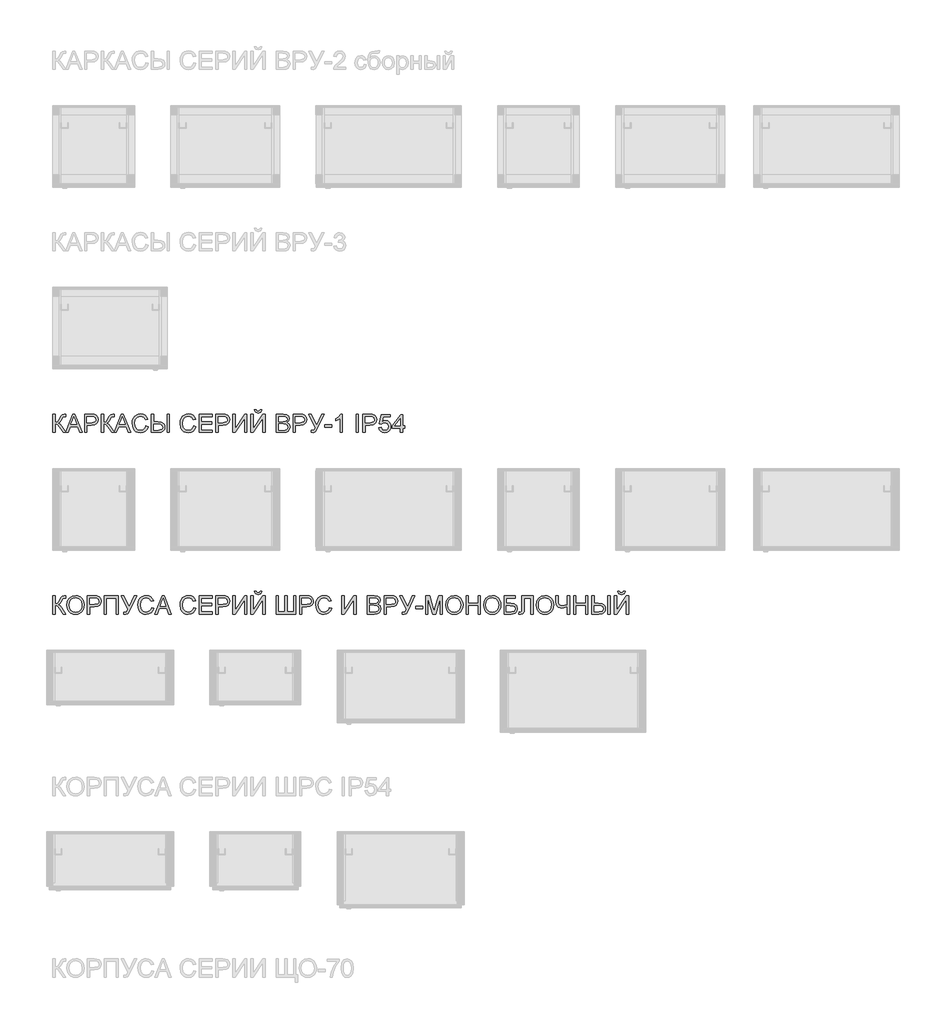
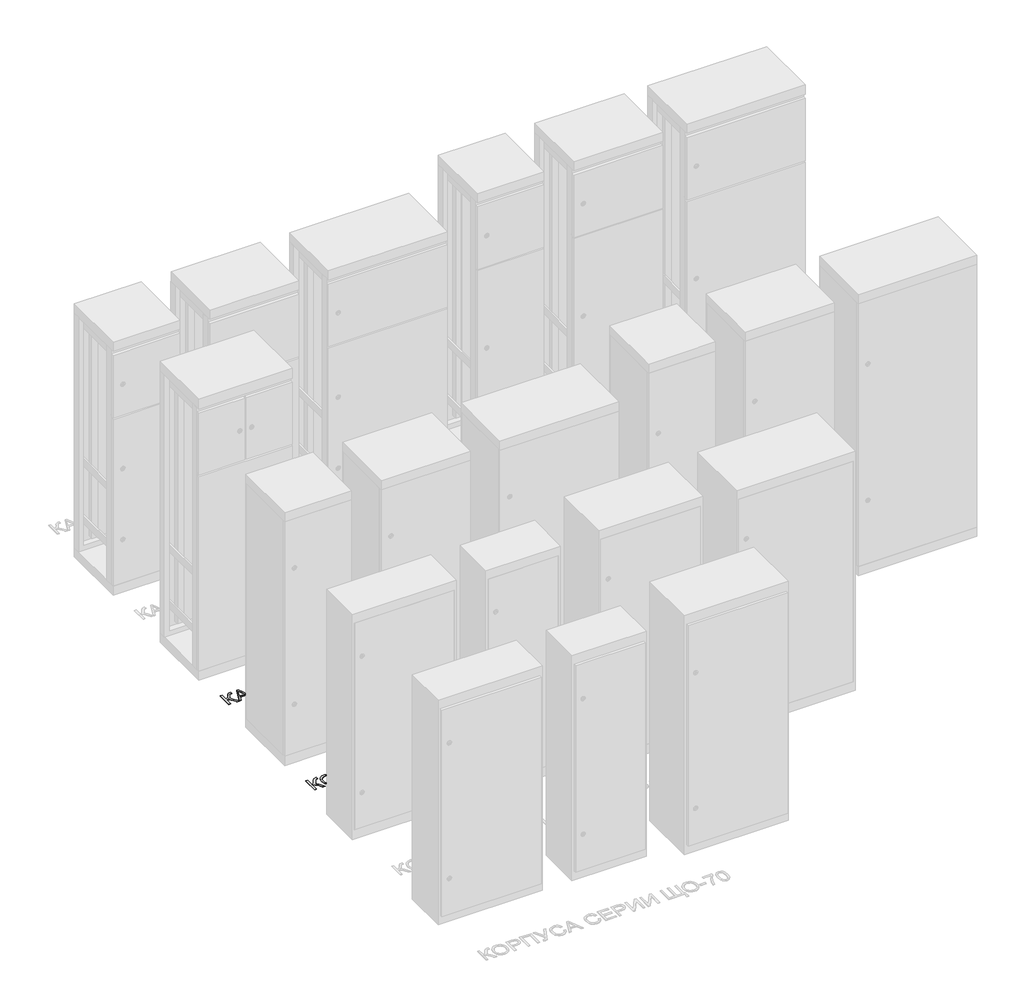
# One storey, part 4 of 25: 2 proxies.
"""IFC4 building model written with IfcOpenShell, lengths in millimetres."""

from ifc_helpers import new_model, si_unit, frame, origin, place, context, project, spatial, polyline, outline, extrude, element, save

model = new_model("IFC4")

# Units and contexts
model_context = context("Model", 3, world=origin())
ifc_project = project(units=[si_unit("LENGTHUNIT", "METRE", prefix="MILLI")], contexts=[model_context])

# Site, building, storey
site = spatial("IfcSite", under=ifc_project)
building = spatial("IfcBuilding", under=site)
storey = spatial("IfcBuildingStorey", under=building, Name="Этаж 01", Elevation=0.0)

# Proxies
placement = place(None, origin())
element("IfcBuildingElementProxy", 1, Name="Надпись на модели 1", ObjectType="Надпись на модели 1", at=placement, inside=storey, context=model_context, shape_type="SweptSolid", body=[
    extrude(outline(polyline([(-18982.0558227, -1213.764716), (-18999.9103622, -1185.4623278), (-19012.4796637, -1170.6857344), (-19025.564, -1166.6758206), (-19025.564, -1213.764716), (-19038.1210387, -1213.764716), (-19038.1210387, -1113.3084059), (-19025.564, -1113.3084059), (-19025.564, -1157.2580415), (-19011.5231705, -1153.9348409), (-19001.7252467, -1137.1226337), (-18994.7968024, -1123.0818042), (-18986.9486532, -1116.1288345), (-18975.7282523, -1113.3084059), (-18967.4876957, -1113.4555587), (-18967.4876957, -1126.0125974), (-18970.2590734, -1125.939021), (-18973.030451, -1125.8654446), (-18982.8406376, -1128.882077), (-18990.2963794, -1141.8069978), (-18999.1868609, -1157.5523471), (-19007.8566133, -1162.751746), (-18998.1629227, -1168.4293915), (-18988.6041222, -1180.262929), (-18967.9231583, -1213.0738426), (-18928.0997967, -1113.3084059), (-18917.4066934, -1113.3084059), (-18877.3075559, -1213.764716), (-18890.5758332, -1213.764716), (-18902.0782769, -1182.3721191), (-18943.4527386, -1182.3721191), (-18954.9306569, -1213.764716), (-18968.1989342, -1213.764716), (-18982.0558227, -1213.764716)]), holes=[polyline([(-18938.841951, -1169.8150803), (-18906.6645391, -1169.8150803), (-18915.7144362, -1145.1179357), (-18922.753245, -1125.8654446), (-18929.007239, -1142.9596947), (-18938.841951, -1169.8150803)])]), frame((0.0, 0.0, 40.0), z_axis=(0.0, 0.0, 1.0), x_axis=(1.0, 0.0, 0.0)), (0.0, 0.0, 1.0), 2.0),
    extrude(outline(polyline([(-18863.8921258, -1213.764716), (-18863.8921258, -1113.3084059), (-18826.6624679, -1113.3084059), (-18811.6528825, -1114.264899), (-18799.451463, -1118.9615258), (-18791.5420001, -1128.6736105), (-18788.5498932, -1142.3710835), (-18790.5701785, -1154.2107524), (-18796.6310344, -1164.0761212), (-18807.9648655, -1170.7347853), (-18825.8040766, -1172.95434), (-18851.335087, -1172.95434), (-18851.335087, -1213.764716), (-18863.8921258, -1213.764716)]), holes=[polyline([(-18851.335087, -1160.3973012), (-18825.0683126, -1160.3973012), (-18806.576111, -1155.7865136), (-18802.4742267, -1150.2376268), (-18801.106932, -1142.8125419), (-18804.3320308, -1132.4137441), (-18812.8055794, -1126.7238359), (-18825.3626182, -1125.8654446), (-18851.335087, -1125.8654446), (-18851.335087, -1160.3973012)])]), frame((0.0, 0.0, 40.0), z_axis=(0.0, 0.0, 1.0), x_axis=(1.0, 0.0, 0.0)), (0.0, 0.0, 1.0), 2.0),
    extrude(outline(polyline([(-18715.2187488, -1213.764716), (-18733.0732883, -1185.4623278), (-18745.6425898, -1170.6857344), (-18758.7269261, -1166.6758206), (-18758.7269261, -1213.764716), (-18771.2839649, -1213.764716), (-18771.2839649, -1113.3084059), (-18758.7269261, -1113.3084059), (-18758.7269261, -1157.2580415), (-18744.6860966, -1153.9348409), (-18734.8881728, -1137.1226337), (-18727.9597286, -1123.0818042), (-18720.1115794, -1116.1288345), (-18708.8911785, -1113.3084059), (-18700.6506218, -1113.4555587), (-18700.6506218, -1126.0125974), (-18703.4219995, -1125.939021), (-18706.1933772, -1125.8654446), (-18716.0035638, -1128.882077), (-18723.4593055, -1141.8069978), (-18732.3497871, -1157.5523471), (-18741.0195394, -1162.751746), (-18731.3258489, -1168.4293915), (-18721.7670483, -1180.262929), (-18701.0860845, -1213.0738426), (-18661.2627229, -1113.3084059), (-18650.5696195, -1113.3084059), (-18610.4704821, -1213.764716), (-18623.7387594, -1213.764716), (-18635.2412031, -1182.3721191), (-18676.6156648, -1182.3721191), (-18688.0935831, -1213.764716), (-18701.3618603, -1213.764716), (-18715.2187488, -1213.764716)]), holes=[polyline([(-18672.0048771, -1169.8150803), (-18639.8274653, -1169.8150803), (-18648.8773624, -1145.1179357), (-18655.9161712, -1125.8654446), (-18662.1701651, -1142.9596947), (-18672.0048771, -1169.8150803)])]), frame((0.0, 0.0, 40.0), z_axis=(0.0, 0.0, 1.0), x_axis=(1.0, 0.0, 0.0)), (0.0, 0.0, 1.0), 2.0),
    extrude(outline(polyline([(-18526.4217089, -1178.055637), (-18513.8646701, -1181.2929986), (-18519.6588116, -1195.9255049), (-18528.7516282, -1206.6155426), (-18540.6955303, -1213.154645), (-18555.0429281, -1215.3343459), (-18569.6079895, -1213.6850082), (-18581.1748125, -1208.7369954), (-18590.0407686, -1200.6619856), (-18596.503229, -1189.6316571), (-18601.7639415, -1162.7762715), (-18600.2770851, -1148.1284367), (-18595.8165159, -1135.4794274), (-18588.6152259, -1125.2308482), (-18578.9062069, -1117.7843035), (-18567.3915004, -1113.2501579), (-18554.773148, -1111.738776), (-18541.0051643, -1113.694682), (-18529.6222823, -1119.5623998), (-18520.9801211, -1128.9801789), (-18515.4343, -1141.5862686), (-18527.9913387, -1144.5783754), (-18538.2920346, -1129.1395944), (-18555.2636573, -1124.2958148), (-18574.9085559, -1129.6668919), (-18586.0063294, -1144.0878661), (-18589.2069027, -1162.751746), (-18585.4177182, -1184.3832073), (-18573.6209689, -1198.2033076), (-18556.2937269, -1202.7773071), (-18545.8121557, -1201.21994), (-18537.078024, -1196.5478386), (-18530.4837393, -1188.810054), (-18526.4217089, -1178.055637)])), frame((0.0, 0.0, 40.0), z_axis=(0.0, 0.0, 1.0), x_axis=(1.0, 0.0, 0.0)), (0.0, 0.0, 1.0), 2.0),
    extrude(outline(polyline([(-18496.5987418, -1113.3084059), (-18484.0417031, -1113.3084059), (-18484.0417031, -1155.6884117), (-18459.9086442, -1155.6884117), (-18440.269877, -1157.8834409), (-18428.7367765, -1164.4685287), (-18423.126576, -1173.8372568), (-18421.2565092, -1184.3832073), (-18423.2338749, -1195.3982074), (-18429.1659721, -1204.9478109), (-18440.4691464, -1211.5604897), (-18458.5597435, -1213.764716), (-18496.5987418, -1213.764716), (-18496.5987418, -1113.3084059)]), holes=[polyline([(-18484.0417031, -1201.2076772), (-18458.6823709, -1201.2076772), (-18439.7119226, -1197.222289), (-18435.2881416, -1192.0382185), (-18433.813548, -1184.4567837), (-18437.3820033, -1174.4749189), (-18446.6035787, -1169.3490965), (-18465.475925, -1168.2454505), (-18484.0417031, -1168.2454505), (-18484.0417031, -1201.2076772)])]), frame((0.0, 0.0, 40.0), z_axis=(0.0, 0.0, 1.0), x_axis=(1.0, 0.0, 0.0)), (0.0, 0.0, 1.0), 2.0),
    extrude(outline(polyline([(-18408.6994704, -1113.3084059), (-18396.1424317, -1113.3084059), (-18396.1424317, -1213.764716), (-18408.6994704, -1213.764716), (-18408.6994704, -1113.3084059)])), frame((0.0, 0.0, 40.0), z_axis=(0.0, 0.0, 1.0), x_axis=(1.0, 0.0, 0.0)), (0.0, 0.0, 1.0), 2.0),
    extrude(outline(polyline([(-18262.7238948, -1178.055637), (-18250.166856, -1181.2929986), (-18255.9609974, -1195.9255049), (-18265.0538141, -1206.6155426), (-18276.9977162, -1213.154645), (-18291.345114, -1215.3343459), (-18305.9101753, -1213.6850082), (-18317.4769984, -1208.7369954), (-18326.3429545, -1200.6619856), (-18332.8054148, -1189.6316571), (-18338.0661274, -1162.7762715), (-18336.579271, -1148.1284367), (-18332.1187018, -1135.4794274), (-18324.9174117, -1125.2308482), (-18315.2083927, -1117.7843035), (-18303.6936863, -1113.2501579), (-18291.0753339, -1111.738776), (-18277.3073502, -1113.694682), (-18265.9244681, -1119.5623998), (-18257.2823069, -1128.9801789), (-18251.7364858, -1141.5862686), (-18264.2935246, -1144.5783754), (-18274.5942205, -1129.1395944), (-18291.5658432, -1124.2958148), (-18311.2107417, -1129.6668919), (-18322.3085152, -1144.0878661), (-18325.5090886, -1162.751746), (-18321.7199041, -1184.3832073), (-18309.9231547, -1198.2033076), (-18292.5959128, -1202.7773071), (-18282.1143416, -1201.21994), (-18273.3802099, -1196.5478386), (-18266.7859251, -1188.810054), (-18262.7238948, -1178.055637)])), frame((0.0, 0.0, 40.0), z_axis=(0.0, 0.0, 1.0), x_axis=(1.0, 0.0, 0.0)), (0.0, 0.0, 1.0), 2.0),
    extrude(outline(polyline([(-18232.9009277, -1213.764716), (-18232.9009277, -1113.3084059), (-18160.6979548, -1113.3084059), (-18160.6979548, -1125.8654446), (-18220.3438889, -1125.8654446), (-18220.3438889, -1155.6884117), (-18163.8372145, -1155.6884117), (-18163.8372145, -1168.2454505), (-18220.3438889, -1168.2454505), (-18220.3438889, -1201.2076772), (-18159.1283249, -1201.2076772), (-18159.1283249, -1213.764716), (-18232.9009277, -1213.764716)])), frame((0.0, 0.0, 40.0), z_axis=(0.0, 0.0, 1.0), x_axis=(1.0, 0.0, 0.0)), (0.0, 0.0, 1.0), 2.0),
    extrude(outline(polyline([(-18140.2927668, -1213.764716), (-18140.2927668, -1113.3084059), (-18103.0631089, -1113.3084059), (-18088.0535235, -1114.264899), (-18075.8521039, -1118.9615258), (-18067.942641, -1128.6736105), (-18064.9505342, -1142.3710835), (-18066.9708194, -1154.2107524), (-18073.0316753, -1164.0761212), (-18084.3655064, -1170.7347853), (-18102.2047175, -1172.95434), (-18127.735728, -1172.95434), (-18127.735728, -1213.764716), (-18140.2927668, -1213.764716)]), holes=[polyline([(-18127.735728, -1160.3973012), (-18101.4689535, -1160.3973012), (-18082.9767519, -1155.7865136), (-18078.8748677, -1150.2376268), (-18077.5075729, -1142.8125419), (-18080.7326717, -1132.4137441), (-18089.2062204, -1126.7238359), (-18101.7632591, -1125.8654446), (-18127.735728, -1125.8654446), (-18127.735728, -1160.3973012)])]), frame((0.0, 0.0, 40.0), z_axis=(0.0, 0.0, 1.0), x_axis=(1.0, 0.0, 0.0)), (0.0, 0.0, 1.0), 2.0),
    extrude(outline(polyline([(-18047.6846058, -1113.3084059), (-18035.1275671, -1113.3084059), (-18035.1275671, -1192.8690187), (-17982.5449672, -1113.3084059), (-17969.2031135, -1113.3084059), (-17969.2031135, -1213.764716), (-17981.7601523, -1213.764716), (-17981.7601523, -1134.4248324), (-18034.2201248, -1213.764716), (-18047.6846058, -1213.764716), (-18047.6846058, -1113.3084059)])), frame((0.0, 0.0, 40.0), z_axis=(0.0, 0.0, 1.0), x_axis=(1.0, 0.0, 0.0)), (0.0, 0.0, 1.0), 2.0),
    extrude(outline(polyline([(-17897.0001406, -1088.1943283), (-17887.5823615, -1088.1943283), (-17893.6769399, -1102.1615814), (-17907.2027346, -1107.0298865), (-17921.844438, -1102.1983696), (-17928.3927375, -1088.1943283), (-17918.9749585, -1088.1943283), (-17915.4432913, -1095.2699254), (-17908.3309061, -1097.6121074), (-17900.5318078, -1095.3435018), (-17897.0001406, -1088.1943283)])), frame((0.0, 0.0, 40.0), z_axis=(0.0, 0.0, 1.0), x_axis=(1.0, 0.0, 0.0)), (0.0, 0.0, 1.0), 2.0),
    extrude(outline(polyline([(-17947.2282957, -1113.3084059), (-17934.6712569, -1113.3084059), (-17934.6712569, -1192.8690187), (-17882.0886571, -1113.3084059), (-17868.7468034, -1113.3084059), (-17868.7468034, -1213.764716), (-17881.3038422, -1213.764716), (-17881.3038422, -1134.4248324), (-17933.7638147, -1213.764716), (-17947.2282957, -1213.764716), (-17947.2282957, -1113.3084059)])), frame((0.0, 0.0, 40.0), z_axis=(0.0, 0.0, 1.0), x_axis=(1.0, 0.0, 0.0)), (0.0, 0.0, 1.0), 2.0),
    extrude(outline(polyline([(-17807.5312394, -1213.764716), (-17807.5312394, -1113.3084059), (-17769.1979355, -1113.3084059), (-17750.423691, -1116.2637246), (-17739.3381802, -1125.3504098), (-17735.3282665, -1138.2017542), (-17738.7005181, -1149.9371898), (-17748.8908494, -1158.8276714), (-17736.5177516, -1168.1963995), (-17732.1890068, -1183.8191216), (-17735.1443255, -1197.3203908), (-17742.4651772, -1206.9343736), (-17753.3912724, -1212.0356706), (-17769.4922411, -1213.764716), (-17807.5312394, -1213.764716)]), holes=[polyline([(-17794.9742006, -1154.1187819), (-17772.0428896, -1154.1187819), (-17758.651985, -1153.0396613), (-17750.5953693, -1148.3920855), (-17747.8853052, -1140.2128424), (-17750.4114283, -1132.0213367), (-17757.6464408, -1127.1775571), (-17773.7841977, -1125.8654446), (-17794.9742006, -1125.8654446), (-17794.9742006, -1154.1187819)]), polyline([(-17794.9742006, -1201.2076772), (-17769.222461, -1201.2076772), (-17759.9027838, -1200.7171679), (-17752.0178463, -1197.9825784), (-17746.793922, -1192.4030348), (-17744.7460456, -1183.9417489), (-17747.1495413, -1174.1806133), (-17754.9363768, -1168.3558151), (-17770.4487343, -1166.6758206), (-17794.9742006, -1166.6758206), (-17794.9742006, -1201.2076772)])]), frame((0.0, 0.0, 40.0), z_axis=(0.0, 0.0, 1.0), x_axis=(1.0, 0.0, 0.0)), (0.0, 0.0, 1.0), 2.0),
    extrude(outline(polyline([(-17714.9230785, -1213.764716), (-17714.9230785, -1113.3084059), (-17677.6934206, -1113.3084059), (-17662.6838352, -1114.264899), (-17650.4824157, -1118.9615258), (-17642.5729528, -1128.6736105), (-17639.5808459, -1142.3710835), (-17641.6011312, -1154.2107524), (-17647.661987, -1164.0761212), (-17658.9958182, -1170.7347853), (-17676.8350292, -1172.95434), (-17702.3660397, -1172.95434), (-17702.3660397, -1213.764716), (-17714.9230785, -1213.764716)]), holes=[polyline([(-17702.3660397, -1160.3973012), (-17676.0992653, -1160.3973012), (-17657.6070636, -1155.7865136), (-17653.5051794, -1150.2376268), (-17652.1378846, -1142.8125419), (-17655.3629835, -1132.4137441), (-17663.8365321, -1126.7238359), (-17676.3935708, -1125.8654446), (-17702.3660397, -1125.8654446), (-17702.3660397, -1160.3973012)])]), frame((0.0, 0.0, 40.0), z_axis=(0.0, 0.0, 1.0), x_axis=(1.0, 0.0, 0.0)), (0.0, 0.0, 1.0), 2.0),
    extrude(outline(polyline([(-17629.3782519, -1113.3084059), (-17615.4723124, -1113.3084059), (-17585.4286162, -1172.8071872), (-17558.4015523, -1113.3084059), (-17544.6182402, -1113.3084059), (-17582.7553403, -1191.569169), (-17593.1296126, -1210.7971346), (-17604.7301582, -1215.3343459), (-17616.0363982, -1213.764716), (-17616.0363982, -1202.7773071), (-17606.1526352, -1202.7773071), (-17598.8195208, -1199.9814039), (-17592.0259666, -1187.2526869), (-17629.3782519, -1113.3084059)])), frame((0.0, 0.0, 40.0), z_axis=(0.0, 0.0, 1.0), x_axis=(1.0, 0.0, 0.0)), (0.0, 0.0, 1.0), 2.0),
    extrude(outline(polyline([(-17540.6941656, -1183.9417489), (-17540.6941656, -1171.3847102), (-17501.4534194, -1171.3847102), (-17501.4534194, -1183.9417489), (-17540.6941656, -1183.9417489)])), frame((0.0, 0.0, 40.0), z_axis=(0.0, 0.0, 1.0), x_axis=(1.0, 0.0, 0.0)), (0.0, 0.0, 1.0), 2.0),
    extrude(outline(polyline([(-17443.3771151, -1213.764716), (-17455.9341539, -1213.764716), (-17455.9341539, -1135.4794274), (-17467.829005, -1143.9529761), (-17481.0482314, -1150.2928091), (-17481.0482314, -1138.4224834), (-17462.6418689, -1126.674785), (-17451.470519, -1113.3084059), (-17443.3771151, -1113.3084059), (-17443.3771151, -1213.764716)])), frame((0.0, 0.0, 40.0), z_axis=(0.0, 0.0, 1.0), x_axis=(1.0, 0.0, 0.0)), (0.0, 0.0, 1.0), 2.0),
    extrude(outline(polyline([(-17368.0348825, -1213.764716), (-17368.0348825, -1113.3084059), (-17355.4778437, -1113.3084059), (-17355.4778437, -1213.764716), (-17368.0348825, -1213.764716)])), frame((0.0, 0.0, 40.0), z_axis=(0.0, 0.0, 1.0), x_axis=(1.0, 0.0, 0.0)), (0.0, 0.0, 1.0), 2.0),
    extrude(outline(polyline([(-17330.3637662, -1213.764716), (-17330.3637662, -1113.3084059), (-17293.1341083, -1113.3084059), (-17278.1245229, -1114.264899), (-17265.9231034, -1118.9615258), (-17258.0136405, -1128.6736105), (-17255.0215336, -1142.3710835), (-17257.0418189, -1154.2107524), (-17263.1026747, -1164.0761212), (-17274.4365059, -1170.7347853), (-17292.275717, -1172.95434), (-17317.8067274, -1172.95434), (-17317.8067274, -1213.764716), (-17330.3637662, -1213.764716)]), holes=[polyline([(-17317.8067274, -1160.3973012), (-17291.539953, -1160.3973012), (-17273.0477513, -1155.7865136), (-17268.9458671, -1150.2376268), (-17267.5785723, -1142.8125419), (-17270.8036712, -1132.4137441), (-17279.2772198, -1126.7238359), (-17291.8342586, -1125.8654446), (-17317.8067274, -1125.8654446), (-17317.8067274, -1160.3973012)])]), frame((0.0, 0.0, 40.0), z_axis=(0.0, 0.0, 1.0), x_axis=(1.0, 0.0, 0.0)), (0.0, 0.0, 1.0), 2.0),
    extrude(outline(polyline([(-17242.4644948, -1187.0810086), (-17229.907456, -1185.5113788), (-17223.5798857, -1198.4485623), (-17210.4587612, -1202.7773071), (-17201.4579151, -1201.2720566), (-17194.7134118, -1196.7563051), (-17190.501163, -1189.7512188), (-17189.09708, -1180.7779638), (-17194.3577926, -1165.8664802), (-17200.9643401, -1161.764596), (-17210.2625575, -1160.3973012), (-17221.2867546, -1162.5800677), (-17228.3378262, -1168.2454505), (-17240.894865, -1166.6758206), (-17229.907456, -1114.8780357), (-17181.2489308, -1114.8780357), (-17181.2489308, -1127.4350745), (-17219.753913, -1127.4350745), (-17225.1249901, -1155.0998005), (-17216.1548008, -1149.655147), (-17206.7554158, -1147.8402625), (-17195.0230458, -1150.090474), (-17185.28337, -1156.8411086), (-17178.7258735, -1167.1295418), (-17176.5400413, -1179.9931488), (-17178.5082099, -1192.5501876), (-17184.412716, -1203.2923419), (-17195.7189559, -1212.3238449), (-17210.5078122, -1215.3343459), (-17222.841056, -1213.3998997), (-17232.666571, -1207.5965612), (-17239.4018772, -1198.5987808), (-17242.4644948, -1187.0810086)])), frame((0.0, 0.0, 40.0), z_axis=(0.0, 0.0, 1.0), x_axis=(1.0, 0.0, 0.0)), (0.0, 0.0, 1.0), 2.0),
    extrude(outline(polyline([(-17124.7422563, -1213.764716), (-17124.7422563, -1190.2202683), (-17170.2615219, -1190.2202683), (-17170.2615219, -1177.6632295), (-17121.6029967, -1114.8780357), (-17112.1852176, -1114.8780357), (-17112.1852176, -1177.6632295), (-17099.6281788, -1177.6632295), (-17099.6281788, -1190.2202683), (-17112.1852176, -1190.2202683), (-17112.1852176, -1213.764716), (-17124.7422563, -1213.764716)]), holes=[polyline([(-17124.7422563, -1177.6632295), (-17124.7422563, -1138.8639418), (-17154.8104781, -1177.6632295), (-17124.7422563, -1177.6632295)])]), frame((0.0, 0.0, 40.0), z_axis=(0.0, 0.0, 1.0), x_axis=(1.0, 0.0, 0.0)), (0.0, 0.0, 1.0), 2.0),
])
element("IfcBuildingElementProxy", 2, Name="Надпись на модели 1", ObjectType="Надпись на модели 1", at=placement, inside=storey, context=model_context, shape_type="SweptSolid", body=[
    extrude(outline(polyline([(-19038.1210387, -2113.3084059), (-19025.564, -2113.3084059), (-19025.564, -2157.2580415), (-19011.5231705, -2153.9348409), (-19001.7252467, -2137.1226337), (-18994.7968024, -2123.0818042), (-18986.9486532, -2116.1288345), (-18975.7282523, -2113.3084059), (-18967.4876957, -2113.4555587), (-18967.4876957, -2126.0125974), (-18970.2590734, -2125.939021), (-18973.030451, -2125.8654446), (-18982.8406376, -2128.882077), (-18990.2963794, -2141.8069978), (-18999.1868609, -2157.5523471), (-19007.8566133, -2162.751746), (-18998.1629227, -2168.4293915), (-18988.6041222, -2180.262929), (-18967.4876957, -2213.764716), (-18982.0558227, -2213.764716), (-18999.9103622, -2185.4623278), (-19012.4796637, -2170.6857344), (-19025.564, -2166.6758206), (-19025.564, -2213.764716), (-19038.1210387, -2213.764716), (-19038.1210387, -2113.3084059)])), frame((0.0, 0.0, 40.0), z_axis=(0.0, 0.0, 1.0), x_axis=(1.0, 0.0, 0.0)), (0.0, 0.0, 1.0), 2.0),
    extrude(outline(polyline([(-18961.2091763, -2164.8609361), (-18957.8614501, -2142.646995), (-18947.8182716, -2125.8409192), (-18932.4837238, -2115.2643118), (-18913.2618896, -2111.738776), (-18900.0855828, -2113.394245), (-18888.2704394, -2118.3606519), (-18878.4602528, -2126.2885089), (-18871.2988166, -2136.8283281), (-18866.9210209, -2149.471206), (-18865.4617557, -2163.7082392), (-18866.997663, -2178.1353448), (-18871.605385, -2190.9560323), (-18879.0304699, -2201.5142456), (-18889.0184661, -2209.1539283), (-18900.7324419, -2213.7892415), (-18913.335466, -2215.3343459), (-18926.7141079, -2213.6267603), (-18938.5966963, -2208.5040035), (-18948.3823574, -2200.4289937), (-18955.4702171, -2189.8646491), (-18961.2091763, -2164.8609361)]), holes=[polyline([(-18948.6521375, -2164.9835634), (-18946.1413429, -2180.698256), (-18938.608959, -2192.672815), (-18927.2873906, -2200.2511841), (-18913.4090424, -2202.7773071), (-18899.328359, -2200.2266586), (-18887.9883965, -2192.5747131), (-18880.5111949, -2180.2322721), (-18878.0187944, -2163.6101373), (-18882.2862256, -2142.8861183), (-18894.7574252, -2129.1641198), (-18913.1883132, -2124.2958148), (-18926.6957138, -2126.6410625), (-18938.1797634, -2133.6768057), (-18946.034044, -2146.1939905), (-18948.6521375, -2164.9835634)])]), frame((0.0, 0.0, 40.0), z_axis=(0.0, 0.0, 1.0), x_axis=(1.0, 0.0, 0.0)), (0.0, 0.0, 1.0), 2.0),
    extrude(outline(polyline([(-18848.1958274, -2213.764716), (-18848.1958274, -2113.3084059), (-18810.9661694, -2113.3084059), (-18795.956584, -2114.264899), (-18783.7551645, -2118.9615258), (-18775.8457016, -2128.6736105), (-18772.8535947, -2142.3710835), (-18774.87388, -2154.2107524), (-18780.9347359, -2164.0761212), (-18792.268567, -2170.7347853), (-18810.1077781, -2172.95434), (-18835.6387886, -2172.95434), (-18835.6387886, -2213.764716), (-18848.1958274, -2213.764716)]), holes=[polyline([(-18835.6387886, -2160.3973012), (-18809.3720141, -2160.3973012), (-18790.8798125, -2155.7865136), (-18786.7779283, -2150.2376268), (-18785.4106335, -2142.8125419), (-18788.6357323, -2132.4137441), (-18797.109281, -2126.7238359), (-18809.6663197, -2125.8654446), (-18835.6387886, -2125.8654446), (-18835.6387886, -2160.3973012)])]), frame((0.0, 0.0, 40.0), z_axis=(0.0, 0.0, 1.0), x_axis=(1.0, 0.0, 0.0)), (0.0, 0.0, 1.0), 2.0),
    extrude(outline(polyline([(-18755.5876664, -2113.3084059), (-18677.1061741, -2113.3084059), (-18677.1061741, -2213.764716), (-18689.6632129, -2213.764716), (-18689.6632129, -2125.8654446), (-18743.0306277, -2125.8654446), (-18743.0306277, -2213.764716), (-18755.5876664, -2213.764716), (-18755.5876664, -2113.3084059)])), frame((0.0, 0.0, 40.0), z_axis=(0.0, 0.0, 1.0), x_axis=(1.0, 0.0, 0.0)), (0.0, 0.0, 1.0), 2.0),
    extrude(outline(polyline([(-18662.1946906, -2113.3084059), (-18648.2887512, -2113.3084059), (-18618.2450549, -2172.8071872), (-18591.217991, -2113.3084059), (-18577.4346789, -2113.3084059), (-18615.5717791, -2191.569169), (-18625.9460513, -2210.7971346), (-18637.5465969, -2215.3343459), (-18648.8528369, -2213.764716), (-18648.8528369, -2202.7773071), (-18638.969074, -2202.7773071), (-18631.6359595, -2199.9814039), (-18624.8424053, -2187.2526869), (-18662.1946906, -2113.3084059)])), frame((0.0, 0.0, 40.0), z_axis=(0.0, 0.0, 1.0), x_axis=(1.0, 0.0, 0.0)), (0.0, 0.0, 1.0), 2.0),
    extrude(outline(polyline([(-18495.029112, -2178.055637), (-18482.4720732, -2181.2929986), (-18488.2662146, -2195.9255049), (-18497.3590313, -2206.6155426), (-18509.3029334, -2213.154645), (-18523.6503312, -2215.3343459), (-18538.2153925, -2213.6850082), (-18549.7822156, -2208.7369954), (-18558.6481717, -2200.6619856), (-18565.1106321, -2189.6316571), (-18570.3713446, -2162.7762715), (-18568.8844882, -2148.1284367), (-18564.423919, -2135.4794274), (-18557.2226289, -2125.2308482), (-18547.51361, -2117.7843035), (-18535.9989035, -2113.2501579), (-18523.3805511, -2111.738776), (-18509.6125674, -2113.694682), (-18498.2296853, -2119.5623998), (-18489.5875241, -2128.9801789), (-18484.0417031, -2141.5862686), (-18496.5987418, -2144.5783754), (-18506.8994377, -2129.1395944), (-18523.8710604, -2124.2958148), (-18543.5159589, -2129.6668919), (-18554.6137325, -2144.0878661), (-18557.8143058, -2162.751746), (-18554.0251213, -2184.3832073), (-18542.228372, -2198.2033076), (-18524.90113, -2202.7773071), (-18514.4195588, -2201.21994), (-18505.6854271, -2196.5478386), (-18499.0911423, -2188.810054), (-18495.029112, -2178.055637)])), frame((0.0, 0.0, 40.0), z_axis=(0.0, 0.0, 1.0), x_axis=(1.0, 0.0, 0.0)), (0.0, 0.0, 1.0), 2.0),
    extrude(outline(polyline([(-18476.9047924, -2213.764716), (-18436.8056549, -2113.3084059), (-18426.1125516, -2113.3084059), (-18386.0134141, -2213.764716), (-18399.2816914, -2213.764716), (-18410.7841351, -2182.3721191), (-18452.1585968, -2182.3721191), (-18463.6365151, -2213.764716), (-18476.9047924, -2213.764716)]), holes=[polyline([(-18447.5478091, -2169.8150803), (-18415.3703973, -2169.8150803), (-18424.4202944, -2145.1179357), (-18431.4591032, -2125.8654446), (-18437.7130971, -2142.9596947), (-18447.5478091, -2169.8150803)])]), frame((0.0, 0.0, 40.0), z_axis=(0.0, 0.0, 1.0), x_axis=(1.0, 0.0, 0.0)), (0.0, 0.0, 1.0), 2.0),
    extrude(outline(polyline([(-18262.7238948, -2178.055637), (-18250.166856, -2181.2929986), (-18255.9609974, -2195.9255049), (-18265.0538141, -2206.6155426), (-18276.9977162, -2213.154645), (-18291.345114, -2215.3343459), (-18305.9101753, -2213.6850082), (-18317.4769984, -2208.7369954), (-18326.3429545, -2200.6619856), (-18332.8054148, -2189.6316571), (-18338.0661274, -2162.7762715), (-18336.579271, -2148.1284367), (-18332.1187018, -2135.4794274), (-18324.9174117, -2125.2308482), (-18315.2083927, -2117.7843035), (-18303.6936863, -2113.2501579), (-18291.0753339, -2111.738776), (-18277.3073502, -2113.694682), (-18265.9244681, -2119.5623998), (-18257.2823069, -2128.9801789), (-18251.7364858, -2141.5862686), (-18264.2935246, -2144.5783754), (-18274.5942205, -2129.1395944), (-18291.5658432, -2124.2958148), (-18311.2107417, -2129.6668919), (-18322.3085152, -2144.0878661), (-18325.5090886, -2162.751746), (-18321.7199041, -2184.3832073), (-18309.9231547, -2198.2033076), (-18292.5959128, -2202.7773071), (-18282.1143416, -2201.21994), (-18273.3802099, -2196.5478386), (-18266.7859251, -2188.810054), (-18262.7238948, -2178.055637)])), frame((0.0, 0.0, 40.0), z_axis=(0.0, 0.0, 1.0), x_axis=(1.0, 0.0, 0.0)), (0.0, 0.0, 1.0), 2.0),
    extrude(outline(polyline([(-18232.9009277, -2213.764716), (-18232.9009277, -2113.3084059), (-18160.6979548, -2113.3084059), (-18160.6979548, -2125.8654446), (-18220.3438889, -2125.8654446), (-18220.3438889, -2155.6884117), (-18163.8372145, -2155.6884117), (-18163.8372145, -2168.2454505), (-18220.3438889, -2168.2454505), (-18220.3438889, -2201.2076772), (-18159.1283249, -2201.2076772), (-18159.1283249, -2213.764716), (-18232.9009277, -2213.764716)])), frame((0.0, 0.0, 40.0), z_axis=(0.0, 0.0, 1.0), x_axis=(1.0, 0.0, 0.0)), (0.0, 0.0, 1.0), 2.0),
    extrude(outline(polyline([(-18140.2927668, -2213.764716), (-18140.2927668, -2113.3084059), (-18103.0631089, -2113.3084059), (-18088.0535235, -2114.264899), (-18075.8521039, -2118.9615258), (-18067.942641, -2128.6736105), (-18064.9505342, -2142.3710835), (-18066.9708194, -2154.2107524), (-18073.0316753, -2164.0761212), (-18084.3655064, -2170.7347853), (-18102.2047175, -2172.95434), (-18127.735728, -2172.95434), (-18127.735728, -2213.764716), (-18140.2927668, -2213.764716)]), holes=[polyline([(-18127.735728, -2160.3973012), (-18101.4689535, -2160.3973012), (-18082.9767519, -2155.7865136), (-18078.8748677, -2150.2376268), (-18077.5075729, -2142.8125419), (-18080.7326717, -2132.4137441), (-18089.2062204, -2126.7238359), (-18101.7632591, -2125.8654446), (-18127.735728, -2125.8654446), (-18127.735728, -2160.3973012)])]), frame((0.0, 0.0, 40.0), z_axis=(0.0, 0.0, 1.0), x_axis=(1.0, 0.0, 0.0)), (0.0, 0.0, 1.0), 2.0),
    extrude(outline(polyline([(-18047.6846058, -2113.3084059), (-18035.1275671, -2113.3084059), (-18035.1275671, -2192.8690187), (-17982.5449672, -2113.3084059), (-17969.2031135, -2113.3084059), (-17969.2031135, -2213.764716), (-17981.7601523, -2213.764716), (-17981.7601523, -2134.4248324), (-18034.2201248, -2213.764716), (-18047.6846058, -2213.764716), (-18047.6846058, -2113.3084059)])), frame((0.0, 0.0, 40.0), z_axis=(0.0, 0.0, 1.0), x_axis=(1.0, 0.0, 0.0)), (0.0, 0.0, 1.0), 2.0),
    extrude(outline(polyline([(-17897.0001406, -2088.1943283), (-17887.5823615, -2088.1943283), (-17893.6769399, -2102.1615814), (-17907.2027346, -2107.0298865), (-17921.844438, -2102.1983696), (-17928.3927375, -2088.1943283), (-17918.9749585, -2088.1943283), (-17915.4432913, -2095.2699254), (-17908.3309061, -2097.6121074), (-17900.5318078, -2095.3435018), (-17897.0001406, -2088.1943283)])), frame((0.0, 0.0, 40.0), z_axis=(0.0, 0.0, 1.0), x_axis=(1.0, 0.0, 0.0)), (0.0, 0.0, 1.0), 2.0),
    extrude(outline(polyline([(-17947.2282957, -2113.3084059), (-17934.6712569, -2113.3084059), (-17934.6712569, -2192.8690187), (-17882.0886571, -2113.3084059), (-17868.7468034, -2113.3084059), (-17868.7468034, -2213.764716), (-17881.3038422, -2213.764716), (-17881.3038422, -2134.4248324), (-17933.7638147, -2213.764716), (-17947.2282957, -2213.764716), (-17947.2282957, -2113.3084059)])), frame((0.0, 0.0, 40.0), z_axis=(0.0, 0.0, 1.0), x_axis=(1.0, 0.0, 0.0)), (0.0, 0.0, 1.0), 2.0),
    extrude(outline(polyline([(-17809.1008692, -2113.3084059), (-17796.5438305, -2113.3084059), (-17796.5438305, -2201.2076772), (-17760.442344, -2201.2076772), (-17760.442344, -2113.3084059), (-17747.8853052, -2113.3084059), (-17747.8853052, -2201.2076772), (-17711.7838188, -2201.2076772), (-17711.7838188, -2113.3084059), (-17699.22678, -2113.3084059), (-17699.22678, -2213.764716), (-17809.1008692, -2213.764716), (-17809.1008692, -2113.3084059)])), frame((0.0, 0.0, 40.0), z_axis=(0.0, 0.0, 1.0), x_axis=(1.0, 0.0, 0.0)), (0.0, 0.0, 1.0), 2.0),
    extrude(outline(polyline([(-17678.821592, -2213.764716), (-17678.821592, -2113.3084059), (-17641.5919341, -2113.3084059), (-17626.5823487, -2114.264899), (-17614.3809292, -2118.9615258), (-17606.4714663, -2128.6736105), (-17603.4793594, -2142.3710835), (-17605.4996447, -2154.2107524), (-17611.5605006, -2164.0761212), (-17622.8943317, -2170.7347853), (-17640.7335428, -2172.95434), (-17666.2645532, -2172.95434), (-17666.2645532, -2213.764716), (-17678.821592, -2213.764716)]), holes=[polyline([(-17666.2645532, -2160.3973012), (-17639.9977788, -2160.3973012), (-17621.5055772, -2155.7865136), (-17617.4036929, -2150.2376268), (-17616.0363982, -2142.8125419), (-17619.261497, -2132.4137441), (-17627.7350456, -2126.7238359), (-17640.2920844, -2125.8654446), (-17666.2645532, -2125.8654446), (-17666.2645532, -2160.3973012)])]), frame((0.0, 0.0, 40.0), z_axis=(0.0, 0.0, 1.0), x_axis=(1.0, 0.0, 0.0)), (0.0, 0.0, 1.0), 2.0),
    extrude(outline(polyline([(-17515.580088, -2178.055637), (-17503.0230493, -2181.2929986), (-17508.8171907, -2195.9255049), (-17517.9100073, -2206.6155426), (-17529.8539094, -2213.154645), (-17544.2013072, -2215.3343459), (-17558.7663686, -2213.6850082), (-17570.3331916, -2208.7369954), (-17579.1991477, -2200.6619856), (-17585.6616081, -2189.6316571), (-17590.9223206, -2162.7762715), (-17589.4354642, -2148.1284367), (-17584.974895, -2135.4794274), (-17577.773605, -2125.2308482), (-17568.064586, -2117.7843035), (-17556.5498796, -2113.2501579), (-17543.9315271, -2111.738776), (-17530.1635434, -2113.694682), (-17518.7806614, -2119.5623998), (-17510.1385002, -2128.9801789), (-17504.5926791, -2141.5862686), (-17517.1497179, -2144.5783754), (-17527.4504137, -2129.1395944), (-17544.4220364, -2124.2958148), (-17564.066935, -2129.6668919), (-17575.1647085, -2144.0878661), (-17578.3652819, -2162.751746), (-17574.5760973, -2184.3832073), (-17562.779348, -2198.2033076), (-17545.452106, -2202.7773071), (-17534.9705349, -2201.21994), (-17526.2364031, -2196.5478386), (-17519.6421184, -2188.810054), (-17515.580088, -2178.055637)])), frame((0.0, 0.0, 40.0), z_axis=(0.0, 0.0, 1.0), x_axis=(1.0, 0.0, 0.0)), (0.0, 0.0, 1.0), 2.0),
    extrude(outline(polyline([(-17446.5163748, -2113.3084059), (-17433.959336, -2113.3084059), (-17433.959336, -2192.8690187), (-17381.3767362, -2113.3084059), (-17368.0348825, -2113.3084059), (-17368.0348825, -2213.764716), (-17380.5919213, -2213.764716), (-17380.5919213, -2134.4248324), (-17433.0518938, -2213.764716), (-17446.5163748, -2213.764716), (-17446.5163748, -2113.3084059)])), frame((0.0, 0.0, 40.0), z_axis=(0.0, 0.0, 1.0), x_axis=(1.0, 0.0, 0.0)), (0.0, 0.0, 1.0), 2.0),
    extrude(outline(polyline([(-17306.8193185, -2213.764716), (-17306.8193185, -2113.3084059), (-17268.4860146, -2113.3084059), (-17249.7117701, -2116.2637246), (-17238.6262593, -2125.3504098), (-17234.6163456, -2138.2017542), (-17237.9885972, -2149.9371898), (-17248.1789285, -2158.8276714), (-17235.8058307, -2168.1963995), (-17231.4770859, -2183.8191216), (-17234.4324046, -2197.3203908), (-17241.7532563, -2206.9343736), (-17252.6793515, -2212.0356706), (-17268.7803202, -2213.764716), (-17306.8193185, -2213.764716)]), holes=[polyline([(-17294.2622797, -2154.1187819), (-17271.3309687, -2154.1187819), (-17257.9400641, -2153.0396613), (-17249.8834484, -2148.3920855), (-17247.1733843, -2140.2128424), (-17249.6995074, -2132.0213367), (-17256.9345199, -2127.1775571), (-17273.0722768, -2125.8654446), (-17294.2622797, -2125.8654446), (-17294.2622797, -2154.1187819)]), polyline([(-17294.2622797, -2201.2076772), (-17268.5105401, -2201.2076772), (-17259.1908629, -2200.7171679), (-17251.3059254, -2197.9825784), (-17246.0820011, -2192.4030348), (-17244.0341246, -2183.9417489), (-17246.4376204, -2174.1806133), (-17254.2244559, -2168.3558151), (-17269.7368134, -2166.6758206), (-17294.2622797, -2166.6758206), (-17294.2622797, -2201.2076772)])]), frame((0.0, 0.0, 40.0), z_axis=(0.0, 0.0, 1.0), x_axis=(1.0, 0.0, 0.0)), (0.0, 0.0, 1.0), 2.0),
    extrude(outline(polyline([(-17214.2111576, -2213.764716), (-17214.2111576, -2113.3084059), (-17176.9814997, -2113.3084059), (-17161.9719143, -2114.264899), (-17149.7704948, -2118.9615258), (-17141.8610319, -2128.6736105), (-17138.868925, -2142.3710835), (-17140.8892103, -2154.2107524), (-17146.9500661, -2164.0761212), (-17158.2838973, -2170.7347853), (-17176.1231083, -2172.95434), (-17201.6541188, -2172.95434), (-17201.6541188, -2213.764716), (-17214.2111576, -2213.764716)]), holes=[polyline([(-17201.6541188, -2160.3973012), (-17175.3873443, -2160.3973012), (-17156.8951427, -2155.7865136), (-17152.7932585, -2150.2376268), (-17151.4259637, -2142.8125419), (-17154.6510626, -2132.4137441), (-17163.1246112, -2126.7238359), (-17175.6816499, -2125.8654446), (-17201.6541188, -2125.8654446), (-17201.6541188, -2160.3973012)])]), frame((0.0, 0.0, 40.0), z_axis=(0.0, 0.0, 1.0), x_axis=(1.0, 0.0, 0.0)), (0.0, 0.0, 1.0), 2.0),
    extrude(outline(polyline([(-17128.666331, -2113.3084059), (-17114.7603915, -2113.3084059), (-17084.7166953, -2172.8071872), (-17057.6896314, -2113.3084059), (-17043.9063193, -2113.3084059), (-17082.0434194, -2191.569169), (-17092.4176917, -2210.7971346), (-17104.0182373, -2215.3343459), (-17115.3244773, -2213.764716), (-17115.3244773, -2202.7773071), (-17105.4407143, -2202.7773071), (-17098.1075999, -2199.9814039), (-17091.3140457, -2187.2526869), (-17128.666331, -2113.3084059)])), frame((0.0, 0.0, 40.0), z_axis=(0.0, 0.0, 1.0), x_axis=(1.0, 0.0, 0.0)), (0.0, 0.0, 1.0), 2.0),
    extrude(outline(polyline([(-17039.9822447, -2183.9417489), (-17039.9822447, -2171.3847102), (-17000.7414985, -2171.3847102), (-17000.7414985, -2183.9417489), (-17039.9822447, -2183.9417489)])), frame((0.0, 0.0, 40.0), z_axis=(0.0, 0.0, 1.0), x_axis=(1.0, 0.0, 0.0)), (0.0, 0.0, 1.0), 2.0),
    extrude(outline(polyline([(-16985.0452, -2213.764716), (-16985.0452, -2113.3084059), (-16963.4382642, -2113.3084059), (-16942.8859234, -2184.1134272), (-16938.7411196, -2198.9022834), (-16934.2529592, -2182.8871539), (-16914.043975, -2113.3084059), (-16892.4370391, -2113.3084059), (-16892.4370391, -2213.764716), (-16904.9940779, -2213.764716), (-16904.9940779, -2125.8654446), (-16930.2307828, -2213.764716), (-16947.2514564, -2213.764716), (-16972.4881613, -2125.8654446), (-16972.4881613, -2213.764716), (-16985.0452, -2213.764716)])), frame((0.0, 0.0, 40.0), z_axis=(0.0, 0.0, 1.0), x_axis=(1.0, 0.0, 0.0)), (0.0, 0.0, 1.0), 2.0),
    extrude(outline(polyline([(-16875.1711108, -2164.8609361), (-16871.8233847, -2142.646995), (-16861.7802062, -2125.8409192), (-16846.4456584, -2115.2643118), (-16827.2238241, -2111.738776), (-16814.0475173, -2113.394245), (-16802.2323739, -2118.3606519), (-16792.4221874, -2126.2885089), (-16785.2607512, -2136.8283281), (-16780.8829555, -2149.471206), (-16779.4236902, -2163.7082392), (-16780.9595975, -2178.1353448), (-16785.5673195, -2190.9560323), (-16792.9924045, -2201.5142456), (-16802.9804006, -2209.1539283), (-16814.6943765, -2213.7892415), (-16827.2974005, -2215.3343459), (-16840.6760424, -2213.6267603), (-16852.5586308, -2208.5040035), (-16862.3442919, -2200.4289937), (-16869.4321517, -2189.8646491), (-16875.1711108, -2164.8609361)]), holes=[polyline([(-16862.6140721, -2164.9835634), (-16860.1032774, -2180.698256), (-16852.5708936, -2192.672815), (-16841.2493252, -2200.2511841), (-16827.3709769, -2202.7773071), (-16813.2902935, -2200.2266586), (-16801.950331, -2192.5747131), (-16794.4731295, -2180.2322721), (-16791.980729, -2163.6101373), (-16796.2481601, -2142.8861183), (-16808.7193598, -2129.1641198), (-16827.1502477, -2124.2958148), (-16840.6576483, -2126.6410625), (-16852.1416979, -2133.6768057), (-16859.9959785, -2146.1939905), (-16862.6140721, -2164.9835634)])]), frame((0.0, 0.0, 40.0), z_axis=(0.0, 0.0, 1.0), x_axis=(1.0, 0.0, 0.0)), (0.0, 0.0, 1.0), 2.0),
    extrude(outline(polyline([(-16762.1577619, -2213.764716), (-16762.1577619, -2113.3084059), (-16749.6007231, -2113.3084059), (-16749.6007231, -2154.1187819), (-16696.2333084, -2154.1187819), (-16696.2333084, -2113.3084059), (-16683.6762696, -2113.3084059), (-16683.6762696, -2213.764716), (-16696.2333084, -2213.764716), (-16696.2333084, -2166.6758206), (-16749.6007231, -2166.6758206), (-16749.6007231, -2213.764716), (-16762.1577619, -2213.764716)])), frame((0.0, 0.0, 40.0), z_axis=(0.0, 0.0, 1.0), x_axis=(1.0, 0.0, 0.0)), (0.0, 0.0, 1.0), 2.0),
    extrude(outline(polyline([(-16666.4103413, -2164.8609361), (-16663.0626151, -2142.646995), (-16653.0194367, -2125.8409192), (-16637.6848888, -2115.2643118), (-16618.4630546, -2111.738776), (-16605.2867478, -2113.394245), (-16593.4716044, -2118.3606519), (-16583.6614178, -2126.2885089), (-16576.4999817, -2136.8283281), (-16572.1221859, -2149.471206), (-16570.6629207, -2163.7082392), (-16572.198828, -2178.1353448), (-16576.80655, -2190.9560323), (-16584.2316349, -2201.5142456), (-16594.2196311, -2209.1539283), (-16605.933607, -2213.7892415), (-16618.536631, -2215.3343459), (-16631.9152729, -2213.6267603), (-16643.7978613, -2208.5040035), (-16653.5835224, -2200.4289937), (-16660.6713822, -2189.8646491), (-16666.4103413, -2164.8609361)]), holes=[polyline([(-16653.8533025, -2164.9835634), (-16651.3425079, -2180.698256), (-16643.8101241, -2192.672815), (-16632.4885557, -2200.2511841), (-16618.6102074, -2202.7773071), (-16604.529524, -2200.2266586), (-16593.1895615, -2192.5747131), (-16585.71236, -2180.2322721), (-16583.2199594, -2163.6101373), (-16587.4873906, -2142.8861183), (-16599.9585902, -2129.1641198), (-16618.3894782, -2124.2958148), (-16631.8968788, -2126.6410625), (-16643.3809284, -2133.6768057), (-16651.235209, -2146.1939905), (-16653.8533025, -2164.9835634)])]), frame((0.0, 0.0, 40.0), z_axis=(0.0, 0.0, 1.0), x_axis=(1.0, 0.0, 0.0)), (0.0, 0.0, 1.0), 2.0),
    extrude(outline(polyline([(-16553.3969924, -2113.3084059), (-16490.6117985, -2113.3084059), (-16490.6117985, -2125.8654446), (-16540.8399536, -2125.8654446), (-16540.8399536, -2155.6884117), (-16517.3200314, -2155.6884117), (-16496.5960123, -2158.2390602), (-16484.2597027, -2167.8775685), (-16479.6243896, -2184.3586819), (-16482.9230648, -2198.6692915), (-16492.7700396, -2209.5463358), (-16515.0636885, -2213.764716), (-16553.3969924, -2213.764716), (-16553.3969924, -2113.3084059)]), holes=[polyline([(-16540.8399536, -2201.2076772), (-16513.935517, -2201.2076772), (-16497.6260819, -2197.0628734), (-16493.5425918, -2191.8818687), (-16492.1814284, -2184.628462), (-16495.2961626, -2174.79375), (-16503.965915, -2169.5453002), (-16522.8873122, -2168.2454505), (-16540.8399536, -2168.2454505), (-16540.8399536, -2201.2076772)])]), frame((0.0, 0.0, 40.0), z_axis=(0.0, 0.0, 1.0), x_axis=(1.0, 0.0, 0.0)), (0.0, 0.0, 1.0), 2.0),
    extrude(outline(polyline([(-16454.5103121, -2113.3084059), (-16393.2947481, -2113.3084059), (-16393.2947481, -2213.764716), (-16405.8517868, -2213.764716), (-16405.8517868, -2125.8654446), (-16441.9532733, -2125.8654446), (-16441.9532733, -2177.1236693), (-16443.4125385, -2199.9936667), (-16449.5316424, -2211.2999066), (-16461.3529172, -2215.3343459), (-16471.7762404, -2213.764716), (-16470.2066105, -2201.2076772), (-16464.1978713, -2202.7773071), (-16456.9260705, -2199.4050555), (-16454.5103121, -2183.524816), (-16454.5103121, -2113.3084059)])), frame((0.0, 0.0, 40.0), z_axis=(0.0, 0.0, 1.0), x_axis=(1.0, 0.0, 0.0)), (0.0, 0.0, 1.0), 2.0),
    extrude(outline(polyline([(-16376.0288198, -2164.8609361), (-16372.6810936, -2142.646995), (-16362.6379151, -2125.8409192), (-16347.3033673, -2115.2643118), (-16328.0815331, -2111.738776), (-16314.9052263, -2113.394245), (-16303.0900829, -2118.3606519), (-16293.2798963, -2126.2885089), (-16286.1184601, -2136.8283281), (-16281.7406644, -2149.471206), (-16280.2813992, -2163.7082392), (-16281.8173065, -2178.1353448), (-16286.4250285, -2190.9560323), (-16293.8501134, -2201.5142456), (-16303.8381096, -2209.1539283), (-16315.5520854, -2213.7892415), (-16328.1551095, -2215.3343459), (-16341.5337513, -2213.6267603), (-16353.4163398, -2208.5040035), (-16363.2020009, -2200.4289937), (-16370.2898606, -2189.8646491), (-16376.0288198, -2164.8609361)]), holes=[polyline([(-16363.471781, -2164.9835634), (-16360.9609864, -2180.698256), (-16353.4286025, -2192.672815), (-16342.1070341, -2200.2511841), (-16328.2286859, -2202.7773071), (-16314.1480025, -2200.2266586), (-16302.80804, -2192.5747131), (-16295.3308384, -2180.2322721), (-16292.8384379, -2163.6101373), (-16297.1058691, -2142.8861183), (-16309.5770687, -2129.1641198), (-16328.0079567, -2124.2958148), (-16341.5153572, -2126.6410625), (-16352.9994069, -2133.6768057), (-16360.8536875, -2146.1939905), (-16363.471781, -2164.9835634)])]), frame((0.0, 0.0, 40.0), z_axis=(0.0, 0.0, 1.0), x_axis=(1.0, 0.0, 0.0)), (0.0, 0.0, 1.0), 2.0),
    extrude(outline(polyline([(-16192.3821278, -2213.764716), (-16204.9391665, -2213.764716), (-16204.9391665, -2173.5429512), (-16236.0374579, -2180.8024892), (-16254.3947694, -2175.8360823), (-16265.0388218, -2163.2299926), (-16267.7243604, -2143.2294748), (-16267.7243604, -2113.3084059), (-16255.1673216, -2113.3084059), (-16255.1673216, -2141.5372176), (-16253.6590054, -2155.1151289), (-16249.1340569, -2163.0828398), (-16234.6395063, -2168.2454505), (-16204.9391665, -2162.015982), (-16204.9391665, -2113.3084059), (-16192.3821278, -2113.3084059), (-16192.3821278, -2213.764716)])), frame((0.0, 0.0, 40.0), z_axis=(0.0, 0.0, 1.0), x_axis=(1.0, 0.0, 0.0)), (0.0, 0.0, 1.0), 2.0),
    extrude(outline(polyline([(-16170.4073099, -2213.764716), (-16170.4073099, -2113.3084059), (-16157.8502712, -2113.3084059), (-16157.8502712, -2154.1187819), (-16104.4828564, -2154.1187819), (-16104.4828564, -2113.3084059), (-16091.9258176, -2113.3084059), (-16091.9258176, -2213.764716), (-16104.4828564, -2213.764716), (-16104.4828564, -2166.6758206), (-16157.8502712, -2166.6758206), (-16157.8502712, -2213.764716), (-16170.4073099, -2213.764716)])), frame((0.0, 0.0, 40.0), z_axis=(0.0, 0.0, 1.0), x_axis=(1.0, 0.0, 0.0)), (0.0, 0.0, 1.0), 2.0),
    extrude(outline(polyline([(-15982.0517284, -2113.3084059), (-15969.4946896, -2113.3084059), (-15969.4946896, -2213.764716), (-15982.0517284, -2213.764716), (-15982.0517284, -2113.3084059)])), frame((0.0, 0.0, 40.0), z_axis=(0.0, 0.0, 1.0), x_axis=(1.0, 0.0, 0.0)), (0.0, 0.0, 1.0), 2.0),
    extrude(outline(polyline([(-16069.9509998, -2113.3084059), (-16057.393961, -2113.3084059), (-16057.393961, -2155.6884117), (-16033.2609021, -2155.6884117), (-16013.6221349, -2157.8834409), (-16002.0890344, -2164.4685287), (-15996.478834, -2173.8372568), (-15994.6087672, -2184.3832073), (-15996.5861329, -2195.3982074), (-16002.5182301, -2204.9478109), (-16013.8214044, -2211.5604897), (-16031.9120015, -2213.764716), (-16069.9509998, -2213.764716), (-16069.9509998, -2113.3084059)]), holes=[polyline([(-16057.393961, -2201.2076772), (-16032.0346288, -2201.2076772), (-16013.0641806, -2197.222289), (-16008.6403996, -2192.0382185), (-16007.1658059, -2184.4567837), (-16010.7342613, -2174.4749189), (-16019.9558366, -2169.3490965), (-16038.828183, -2168.2454505), (-16057.393961, -2168.2454505), (-16057.393961, -2201.2076772)])]), frame((0.0, 0.0, 40.0), z_axis=(0.0, 0.0, 1.0), x_axis=(1.0, 0.0, 0.0)), (0.0, 0.0, 1.0), 2.0),
    extrude(outline(polyline([(-15945.9502419, -2113.3084059), (-15933.3932032, -2113.3084059), (-15933.3932032, -2192.8690187), (-15880.8106033, -2113.3084059), (-15867.4687496, -2113.3084059), (-15867.4687496, -2213.764716), (-15880.0257884, -2213.764716), (-15880.0257884, -2134.4248324), (-15932.4857609, -2213.764716), (-15945.9502419, -2213.764716), (-15945.9502419, -2113.3084059)])), frame((0.0, 0.0, 40.0), z_axis=(0.0, 0.0, 1.0), x_axis=(1.0, 0.0, 0.0)), (0.0, 0.0, 1.0), 2.0),
    extrude(outline(polyline([(-15895.7220869, -2088.1943283), (-15886.3043078, -2088.1943283), (-15892.3988862, -2102.1615814), (-15905.9246809, -2107.0298865), (-15920.5663843, -2102.1983696), (-15927.1146838, -2088.1943283), (-15917.6969047, -2088.1943283), (-15914.1652376, -2095.2699254), (-15907.0528523, -2097.6121074), (-15899.253754, -2095.3435018), (-15895.7220869, -2088.1943283)])), frame((0.0, 0.0, 40.0), z_axis=(0.0, 0.0, 1.0), x_axis=(1.0, 0.0, 0.0)), (0.0, 0.0, 1.0), 2.0),
])

save(model, "model.ifc")
